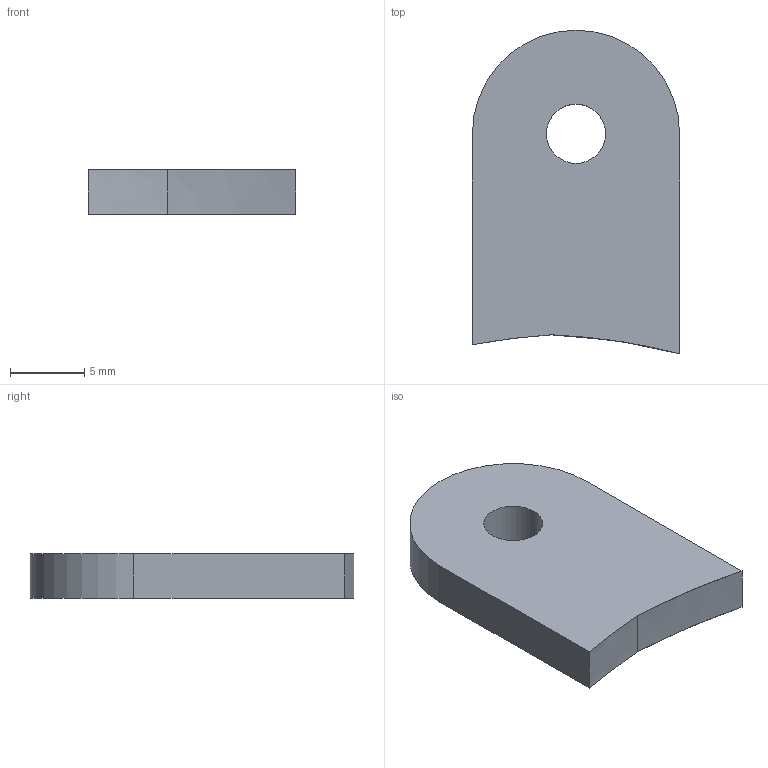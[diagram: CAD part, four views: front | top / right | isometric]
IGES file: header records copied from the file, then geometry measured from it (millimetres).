
Start section: START RECORD GO HERE.
Global section: file name: EN_09033 (Frame Bracket Rear).igs; native system: IBM CATIA IGES - CATIA Version 5 Release 19 ; preprocessor: CATIA Version 5 Release 19 ; author: Mathieu Jacquet; organization: MBPRO; date: 20200116.125205; units: millimetre
Bounding box: 14 x 21.86 x 3 mm (x, y, z)
Surface area: 753.8 mm2 (no closed solid volume)
Topology: 0 solids, 0 shells, 9 faces, 42 edges, 44 vertices
Faces by surface type: plane 4, revolution 3, extrusion 2
